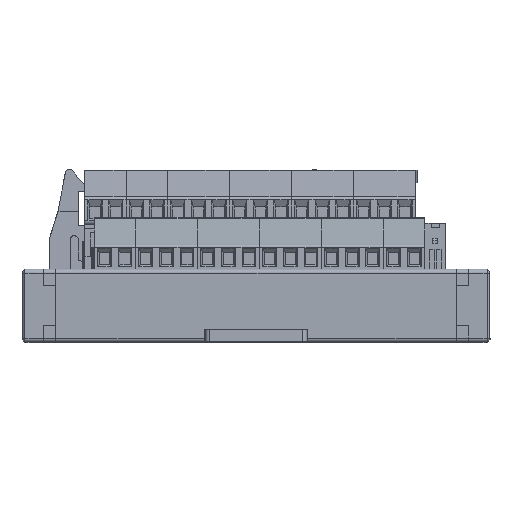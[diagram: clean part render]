
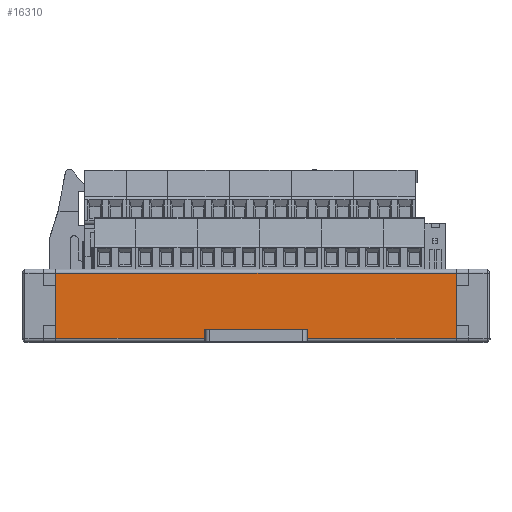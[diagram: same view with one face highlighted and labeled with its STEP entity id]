
A CAD part, top view. The second image highlights one B-rep face of the part: STEP entity #16310.
In plain terms, the highlighted planar face has unit normal (0, 0, 1).
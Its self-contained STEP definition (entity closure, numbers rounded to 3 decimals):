
#1962 = CARTESIAN_POINT ( 'NONE',  ( 49.25, 256.353, 0. ) ) ;
#2779 = LINE ( 'NONE', #32458, #61609 ) ;
#7883 = EDGE_CURVE ( 'NONE', #136814, #54893, #16162, .T. ) ;
#8650 = DIRECTION ( 'NONE',  ( 0., 1., 0. ) ) ;
#13525 = ORIENTED_EDGE ( 'NONE', *, *, #135047, .T. ) ;
#14516 = ORIENTED_EDGE ( 'NONE', *, *, #51427, .T. ) ;
#15248 = LINE ( 'NONE', #97293, #41173 ) ;
#15603 = EDGE_CURVE ( 'NONE', #84173, #122092, #19931, .T. ) ;
#16162 = LINE ( 'NONE', #110196, #104403 ) ;
#16310 = ADVANCED_FACE ( 'NONE', ( #128736 ), #43000, .T. ) ;
#18188 = ORIENTED_EDGE ( 'NONE', *, *, #15603, .F. ) ;
#19931 = LINE ( 'NONE', #93069, #127202 ) ;
#20789 = CARTESIAN_POINT ( 'NONE',  ( 66.5, 240.353, 0. ) ) ;
#23456 = CARTESIAN_POINT ( 'NONE',  ( 66.5, 256.353, 0. ) ) ;
#24743 = AXIS2_PLACEMENT_3D ( 'NONE', #20789, #120477, #54115 ) ;
#25406 = VECTOR ( 'NONE', #136712, 1000. ) ;
#27302 = LINE ( 'NONE', #23456, #138078 ) ;
#29003 = CARTESIAN_POINT ( 'NONE',  ( 12.7, 242.553, 0. ) ) ;
#31626 = CARTESIAN_POINT ( 'NONE',  ( 12.7, 240.353, 0. ) ) ;
#32458 = CARTESIAN_POINT ( 'NONE',  ( 66.5, 240.353, 0. ) ) ;
#34068 = ORIENTED_EDGE ( 'NONE', *, *, #59874, .T. ) ;
#41173 = VECTOR ( 'NONE', #108440, 1000. ) ;
#43000 = PLANE ( 'NONE',  #24743 ) ;
#43522 = DIRECTION ( 'NONE',  ( 1., 0., 0. ) ) ;
#43892 = DIRECTION ( 'NONE',  ( 0., 1., 0. ) ) ;
#48036 = VERTEX_POINT ( 'NONE', #117126 ) ;
#49486 = CARTESIAN_POINT ( 'NONE',  ( -12.7, 242.553, 0. ) ) ;
#51090 = VERTEX_POINT ( 'NONE', #29003 ) ;
#51427 = EDGE_CURVE ( 'NONE', #118730, #136814, #2779, .T. ) ;
#54115 = DIRECTION ( 'NONE',  ( 1., 0., 0. ) ) ;
#54893 = VERTEX_POINT ( 'NONE', #49486 ) ;
#59874 = EDGE_CURVE ( 'NONE', #143295, #122092, #15248, .T. ) ;
#60371 = CARTESIAN_POINT ( 'NONE',  ( -12.7, 240.353, 0. ) ) ;
#60627 = ORIENTED_EDGE ( 'NONE', *, *, #7883, .T. ) ;
#61296 = VECTOR ( 'NONE', #95295, 1000. ) ;
#61609 = VECTOR ( 'NONE', #43522, 1000. ) ;
#70351 = EDGE_LOOP ( 'NONE', ( #18188, #13525, #141217, #14516, #60627, #75190, #123697, #34068 ) ) ;
#75190 = ORIENTED_EDGE ( 'NONE', *, *, #131055, .T. ) ;
#84173 = VERTEX_POINT ( 'NONE', #1962 ) ;
#84475 = EDGE_CURVE ( 'NONE', #118730, #48036, #107260, .T. ) ;
#87418 = CARTESIAN_POINT ( 'NONE',  ( 49.25, 240.353, 0. ) ) ;
#89677 = DIRECTION ( 'NONE',  ( -1., 0., 0. ) ) ;
#90740 = LINE ( 'NONE', #95786, #61296 ) ;
#93069 = CARTESIAN_POINT ( 'NONE',  ( 49.25, 259.686, 0. ) ) ;
#95295 = DIRECTION ( 'NONE',  ( 1., 0., 0. ) ) ;
#95786 = CARTESIAN_POINT ( 'NONE',  ( 66.5, 242.553, 0. ) ) ;
#97293 = CARTESIAN_POINT ( 'NONE',  ( 66.5, 240.353, 0. ) ) ;
#104195 = DIRECTION ( 'NONE',  ( 0., -1., 0. ) ) ;
#104403 = VECTOR ( 'NONE', #43892, 1000. ) ;
#107260 = LINE ( 'NONE', #141169, #133251 ) ;
#108440 = DIRECTION ( 'NONE',  ( 1., 0., 0. ) ) ;
#110196 = CARTESIAN_POINT ( 'NONE',  ( -12.7, 240.353, 0. ) ) ;
#110343 = CARTESIAN_POINT ( 'NONE',  ( -49.25, 240.353, 0. ) ) ;
#117126 = CARTESIAN_POINT ( 'NONE',  ( -49.25, 256.353, 0. ) ) ;
#117137 = LINE ( 'NONE', #125591, #25406 ) ;
#118730 = VERTEX_POINT ( 'NONE', #110343 ) ;
#120477 = DIRECTION ( 'NONE',  ( 0., 0., 1. ) ) ;
#122092 = VERTEX_POINT ( 'NONE', #87418 ) ;
#123697 = ORIENTED_EDGE ( 'NONE', *, *, #135726, .T. ) ;
#125591 = CARTESIAN_POINT ( 'NONE',  ( 12.7, 240.353, 0. ) ) ;
#127202 = VECTOR ( 'NONE', #104195, 1000. ) ;
#128736 = FACE_OUTER_BOUND ( 'NONE', #70351, .T. ) ;
#131055 = EDGE_CURVE ( 'NONE', #54893, #51090, #90740, .T. ) ;
#133251 = VECTOR ( 'NONE', #8650, 1000. ) ;
#135047 = EDGE_CURVE ( 'NONE', #84173, #48036, #27302, .T. ) ;
#135726 = EDGE_CURVE ( 'NONE', #51090, #143295, #117137, .T. ) ;
#136712 = DIRECTION ( 'NONE',  ( 0., -1., 0. ) ) ;
#136814 = VERTEX_POINT ( 'NONE', #60371 ) ;
#138078 = VECTOR ( 'NONE', #89677, 1000. ) ;
#141169 = CARTESIAN_POINT ( 'NONE',  ( -49.25, 259.686, 0. ) ) ;
#141217 = ORIENTED_EDGE ( 'NONE', *, *, #84475, .F. ) ;
#143295 = VERTEX_POINT ( 'NONE', #31626 ) ;
